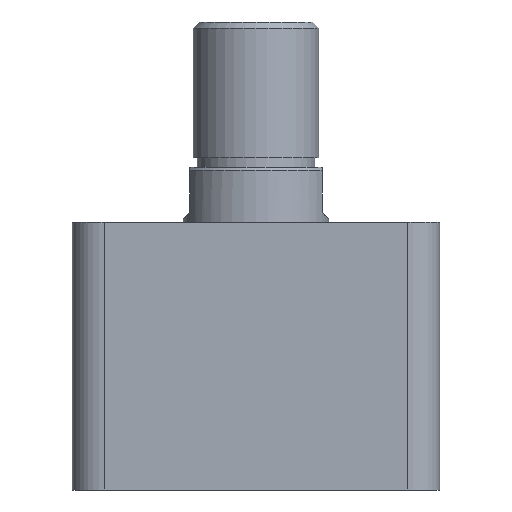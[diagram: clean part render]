
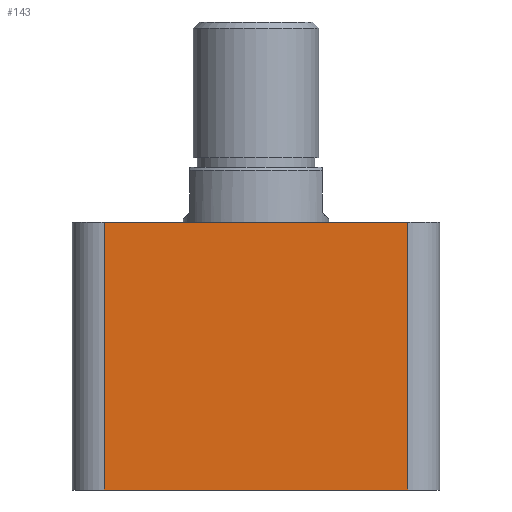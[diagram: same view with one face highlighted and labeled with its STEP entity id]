
A CAD part, front view. The second image highlights one B-rep face of the part: STEP entity #143.
In plain terms, the highlighted planar face has unit normal (0, -1, 0).
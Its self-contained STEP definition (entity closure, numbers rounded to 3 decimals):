
#39 = VERTEX_POINT ( 'NONE', #664 ) ;
#40 = VERTEX_POINT ( 'NONE', #563 ) ;
#41 = VERTEX_POINT ( 'NONE', #692 ) ;
#50 = VERTEX_POINT ( 'NONE', #550 ) ;
#143 = ADVANCED_FACE ( 'NONE', ( #2386 ), #607, .F. ) ;
#191 = ORIENTED_EDGE ( 'NONE', *, *, #1357, .T. ) ;
#192 = ORIENTED_EDGE ( 'NONE', *, *, #1358, .T. ) ;
#193 = ORIENTED_EDGE ( 'NONE', *, *, #1359, .F. ) ;
#194 = ORIENTED_EDGE ( 'NONE', *, *, #1360, .T. ) ;
#396 = LINE ( 'NONE', #981, #1845 ) ;
#495 = EDGE_LOOP ( 'NONE', ( #191, #192, #193, #194 ) ) ;
#550 = CARTESIAN_POINT ( 'NONE',  ( -47., -57., 0. ) ) ;
#563 = CARTESIAN_POINT ( 'NONE',  ( -47., -57., 83. ) ) ;
#602 = DIRECTION ( 'NONE',  ( 0., 0., 1. ) ) ;
#603 = DIRECTION ( 'NONE',  ( 0., 1., 0. ) ) ;
#607 = PLANE ( 'NONE',  #1503 ) ;
#640 = CARTESIAN_POINT ( 'NONE',  ( -57., -57., 83. ) ) ;
#664 = CARTESIAN_POINT ( 'NONE',  ( 47., -57., 83. ) ) ;
#692 = CARTESIAN_POINT ( 'NONE',  ( 47., -57., 0. ) ) ;
#957 = CARTESIAN_POINT ( 'NONE',  ( 47., -57., 83. ) ) ;
#978 = CARTESIAN_POINT ( 'NONE',  ( -57., -57., 0. ) ) ;
#979 = DIRECTION ( 'NONE',  ( 1., 0., 0. ) ) ;
#980 = DIRECTION ( 'NONE',  ( 0., 0., 1. ) ) ;
#981 = CARTESIAN_POINT ( 'NONE',  ( -57., -57., 83. ) ) ;
#982 = DIRECTION ( 'NONE',  ( 1., 0., 0. ) ) ;
#983 = CARTESIAN_POINT ( 'NONE',  ( -47., -57., 83. ) ) ;
#984 = DIRECTION ( 'NONE',  ( 0., 0., -1. ) ) ;
#1247 = LINE ( 'NONE', #978, #2750 ) ;
#1357 = EDGE_CURVE ( 'NONE', #50, #41, #1247, .T. ) ;
#1358 = EDGE_CURVE ( 'NONE', #41, #39, #2745, .T. ) ;
#1359 = EDGE_CURVE ( 'NONE', #40, #39, #396, .T. ) ;
#1360 = EDGE_CURVE ( 'NONE', #40, #50, #2384, .T. ) ;
#1503 = AXIS2_PLACEMENT_3D ( 'NONE', #640, #603, #602 ) ;
#1845 = VECTOR ( 'NONE', #982, 1000. ) ;
#2383 = VECTOR ( 'NONE', #984, 1000. ) ;
#2384 = LINE ( 'NONE', #983, #2383 ) ;
#2386 = FACE_OUTER_BOUND ( 'NONE', #495, .T. ) ;
#2745 = LINE ( 'NONE', #957, #2747 ) ;
#2747 = VECTOR ( 'NONE', #980, 1000. ) ;
#2750 = VECTOR ( 'NONE', #979, 1000. ) ;
